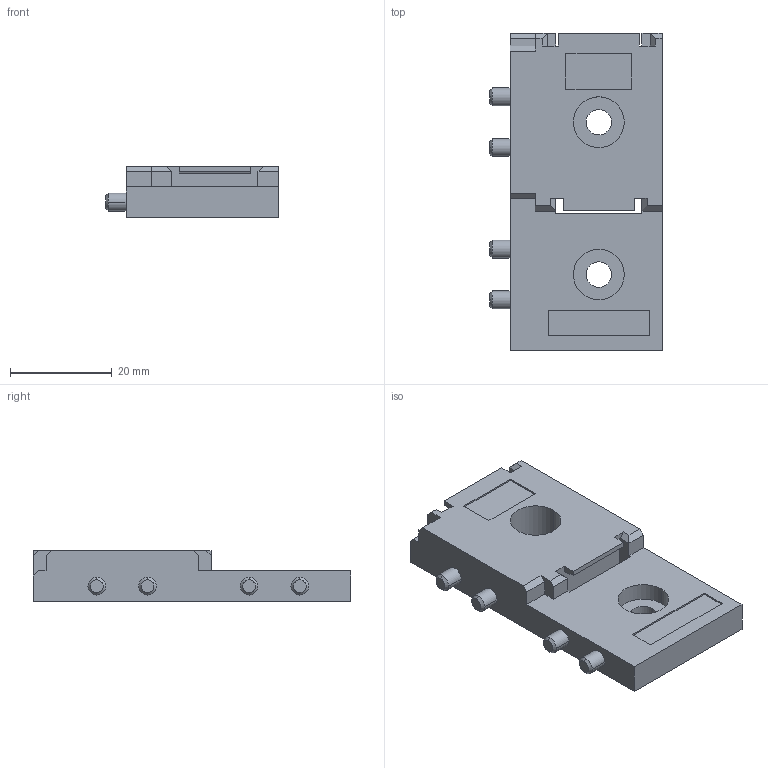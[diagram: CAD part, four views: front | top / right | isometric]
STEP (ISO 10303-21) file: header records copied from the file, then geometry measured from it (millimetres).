
FILE_DESCRIPTION (( 'STEP AP203' ), '1' );
FILE_NAME ('afp0811.STEP', '2015-07-03T01:56:01', ( '' ), ( '' ), 'SwSTEP 2.0', 'SolidWorks 2010', '' );
FILE_SCHEMA (( 'CONFIG_CONTROL_DESIGN' ));
Length unit declared in the file: millimetre
Products named in the file (1): afp0811
Bounding box: 34 x 62.5 x 10 mm (x, y, z)
Volume: 13421.9 mm3; surface area: 6386.5 mm2
Topology: 1 solids, 1 shells, 97 faces, 248 edges, 164 vertices
Faces by surface type: plane 65, cylinder 24, cone 8
Entity records: 3023 total; most frequent: CARTESIAN_POINT 510, DIRECTION 508, ORIENTED_EDGE 496, EDGE_CURVE 248, VECTOR 184, LINE 184, VERTEX_POINT 164, AXIS2_PLACEMENT_3D 162
